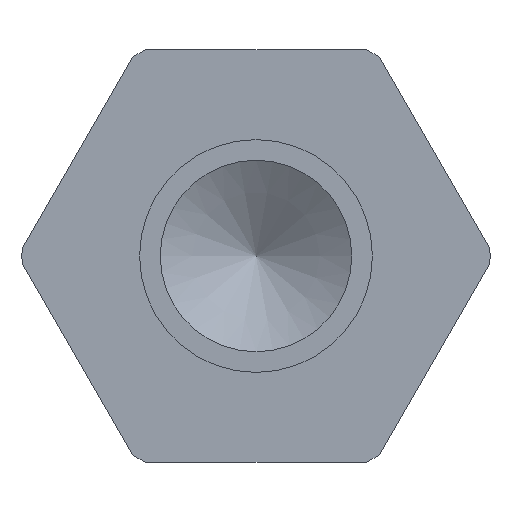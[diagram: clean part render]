
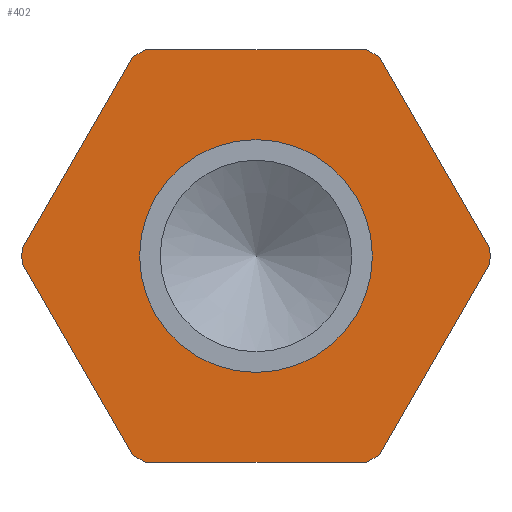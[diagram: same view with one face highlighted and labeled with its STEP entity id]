
A CAD part, left-side view. The second image highlights one B-rep face of the part: STEP entity #402.
In plain terms, the highlighted planar face has unit normal (-1, 0, 0).
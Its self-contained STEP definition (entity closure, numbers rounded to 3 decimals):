
#19=LINE($,#639,#43);
#22=LINE($,#645,#46);
#25=LINE($,#651,#49);
#28=LINE($,#657,#52);
#31=LINE($,#663,#55);
#33=LINE($,#671,#57);
#43=VECTOR($,#511,3.394);
#46=VECTOR($,#516,3.394);
#49=VECTOR($,#521,3.394);
#52=VECTOR($,#526,3.394);
#55=VECTOR($,#531,3.394);
#57=VECTOR($,#539,3.394);
#67=PLANE($,#441);
#77=FACE_BOUND($,#135,.T.);
#78=FACE_BOUND($,#136,.T.);
#135=EDGE_LOOP($,(#307));
#136=EDGE_LOOP($,(#308,#309,#310,#311,#312,#313,#314,#315,#316,#317,#318,
#319));
#171=CIRCLE($,#442,1.791);
#172=CIRCLE($,#443,3.6);
#173=CIRCLE($,#444,3.6);
#174=CIRCLE($,#445,3.6);
#175=CIRCLE($,#446,3.6);
#176=CIRCLE($,#447,3.6);
#177=CIRCLE($,#448,3.6);
#201=VERTEX_POINT($,#636);
#202=VERTEX_POINT($,#638);
#203=VERTEX_POINT($,#642);
#204=VERTEX_POINT($,#644);
#205=VERTEX_POINT($,#648);
#206=VERTEX_POINT($,#650);
#207=VERTEX_POINT($,#654);
#208=VERTEX_POINT($,#656);
#209=VERTEX_POINT($,#660);
#210=VERTEX_POINT($,#662);
#211=VERTEX_POINT($,#666);
#212=VERTEX_POINT($,#668);
#213=VERTEX_POINT($,#670);
#238=EDGE_CURVE($,#202,#201,#19,.T.);
#241=EDGE_CURVE($,#204,#203,#22,.T.);
#244=EDGE_CURVE($,#206,#205,#25,.T.);
#247=EDGE_CURVE($,#208,#207,#28,.T.);
#250=EDGE_CURVE($,#210,#209,#31,.T.);
#252=EDGE_CURVE($,#211,#211,#171,.T.);
#253=EDGE_CURVE($,#201,#212,#172,.T.);
#254=EDGE_CURVE($,#212,#213,#33,.T.);
#255=EDGE_CURVE($,#213,#210,#173,.T.);
#256=EDGE_CURVE($,#209,#208,#174,.T.);
#257=EDGE_CURVE($,#207,#206,#175,.T.);
#258=EDGE_CURVE($,#205,#204,#176,.T.);
#259=EDGE_CURVE($,#203,#202,#177,.T.);
#307=ORIENTED_EDGE($,*,*,#252,.F.);
#308=ORIENTED_EDGE($,*,*,#238,.T.);
#309=ORIENTED_EDGE($,*,*,#253,.T.);
#310=ORIENTED_EDGE($,*,*,#254,.T.);
#311=ORIENTED_EDGE($,*,*,#255,.T.);
#312=ORIENTED_EDGE($,*,*,#250,.T.);
#313=ORIENTED_EDGE($,*,*,#256,.T.);
#314=ORIENTED_EDGE($,*,*,#247,.T.);
#315=ORIENTED_EDGE($,*,*,#257,.T.);
#316=ORIENTED_EDGE($,*,*,#244,.T.);
#317=ORIENTED_EDGE($,*,*,#258,.T.);
#318=ORIENTED_EDGE($,*,*,#241,.T.);
#319=ORIENTED_EDGE($,*,*,#259,.T.);
#402=ADVANCED_FACE($,(#77,#78),#67,.T.);
#441=AXIS2_PLACEMENT_3D($,#665,#533,#534);
#442=AXIS2_PLACEMENT_3D($,#667,#535,#536);
#443=AXIS2_PLACEMENT_3D($,#669,#537,#538);
#444=AXIS2_PLACEMENT_3D($,#672,#540,#541);
#445=AXIS2_PLACEMENT_3D($,#673,#542,#543);
#446=AXIS2_PLACEMENT_3D($,#674,#544,#545);
#447=AXIS2_PLACEMENT_3D($,#675,#546,#547);
#448=AXIS2_PLACEMENT_3D($,#676,#548,#549);
#511=DIRECTION($,(0.,-0.5,-0.866));
#516=DIRECTION($,(0.,0.5,-0.866));
#521=DIRECTION($,(0.,1.,0.));
#526=DIRECTION($,(0.,0.5,0.866));
#531=DIRECTION($,(0.,-0.5,0.866));
#533=DIRECTION('center_axis',(-1.,0.,0.));
#534=DIRECTION('ref_axis',(0.,0.,1.));
#535=DIRECTION('center_axis',(-1.,0.,0.));
#536=DIRECTION('ref_axis',(0.,1.,0.));
#537=DIRECTION('center_axis',(-1.,0.,0.));
#538=DIRECTION('ref_axis',(0.,1.,0.));
#539=DIRECTION($,(0.,-1.,0.));
#540=DIRECTION('center_axis',(-1.,0.,0.));
#541=DIRECTION('ref_axis',(0.,1.,0.));
#542=DIRECTION('center_axis',(-1.,0.,0.));
#543=DIRECTION('ref_axis',(0.,1.,0.));
#544=DIRECTION('center_axis',(-1.,0.,0.));
#545=DIRECTION('ref_axis',(0.,1.,0.));
#546=DIRECTION('center_axis',(-1.,0.,0.));
#547=DIRECTION('ref_axis',(0.,1.,0.));
#548=DIRECTION('center_axis',(-1.,0.,0.));
#549=DIRECTION('ref_axis',(0.,1.,0.));
#636=CARTESIAN_POINT('',(-12.022,0.315,-3.057));
#638=CARTESIAN_POINT('',(-12.022,2.012,-0.118));
#639=CARTESIAN_POINT($,(-12.022,1.498,-1.008));
#642=CARTESIAN_POINT('',(-12.022,2.012,0.118));
#644=CARTESIAN_POINT('',(-12.022,0.315,3.057));
#645=CARTESIAN_POINT($,(-12.022,1.502,1.));
#648=CARTESIAN_POINT('',(-12.022,0.111,3.175));
#650=CARTESIAN_POINT('',(-12.022,-3.283,3.175));
#651=CARTESIAN_POINT($,(-12.022,-0.234,3.175));
#654=CARTESIAN_POINT('',(-12.022,-3.488,3.057));
#656=CARTESIAN_POINT('',(-12.022,-5.184,0.118));
#657=CARTESIAN_POINT($,(-12.022,-3.997,2.175));
#660=CARTESIAN_POINT('',(-12.022,-5.184,-0.118));
#662=CARTESIAN_POINT('',(-12.022,-3.488,-3.057));
#663=CARTESIAN_POINT($,(-12.022,-4.001,-2.167));
#665=CARTESIAN_POINT('Origin',(-12.022,1.109,0.));
#666=CARTESIAN_POINT('',(-12.022,0.204,0.));
#667=CARTESIAN_POINT('Origin',(-12.022,-1.586,0.));
#668=CARTESIAN_POINT('',(-12.022,0.111,-3.175));
#669=CARTESIAN_POINT('Origin',(-12.022,-1.586,0.));
#670=CARTESIAN_POINT('',(-12.022,-3.283,-3.175));
#671=CARTESIAN_POINT($,(-12.022,-0.243,-3.175));
#672=CARTESIAN_POINT('Origin',(-12.022,-1.586,0.));
#673=CARTESIAN_POINT('Origin',(-12.022,-1.586,0.));
#674=CARTESIAN_POINT('Origin',(-12.022,-1.586,0.));
#675=CARTESIAN_POINT('Origin',(-12.022,-1.586,0.));
#676=CARTESIAN_POINT('Origin',(-12.022,-1.586,0.));
